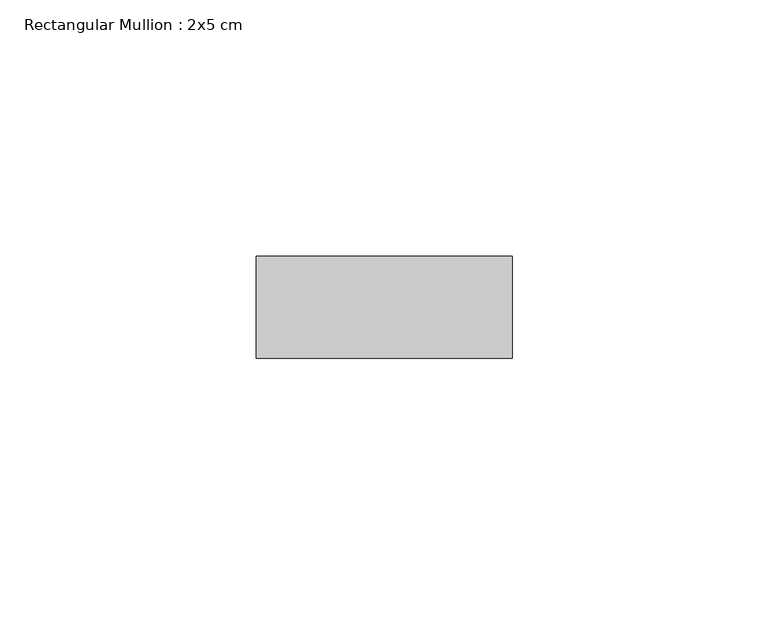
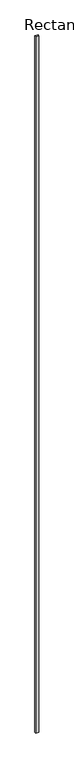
"""IFC4 building model written with IfcOpenShell, lengths in millimetres: member geometry, Rectangular Mullion : 2x5 cm."""

from ifc_helpers import new_model, si_unit, frame, origin, place, context, project, spatial, polyline, outline, extrude, source, transform, mapped, element, save


def rectangular_mullion_2x5_cm_7a28f2c6(model_context):
    return source(origin(), model_context, "Body", "SweptSolid", [
        extrude(outline(polyline([(50.0, 20.0), (50.0, 0.0), (0.0, 0.0), (0.0, 20.0), (50.0, 20.0)])), frame((0.0, 0.0, -11451.5542217), z_axis=(0.0, 0.0, 1.0), x_axis=(1.0, 0.0, 0.0)), (0.0, 0.0, 1.0), 11451.5542217),
    ])


if __name__ == "__main__":
    model = new_model("IFC4")
    model_context = context("Model", 3, world=origin())
    ifc_project = project(units=[si_unit("LENGTHUNIT", "METRE", prefix="MILLI")], contexts=[model_context])
    site = spatial("IfcSite", under=ifc_project)
    building = spatial("IfcBuilding", under=site)
    placement = place(None, origin())
    rectangular_mullion_2x5_cm_shape = rectangular_mullion_2x5_cm_7a28f2c6(model_context)
    element("IfcMember", 1, ObjectType="Rectangular Mullion : 2x5 cm", at=placement, inside=building, context=model_context, shape_type="MappedRepresentation", body=[
        mapped(rectangular_mullion_2x5_cm_shape, transform((0.0, 0.0, 0.0), x_axis=(1.0, 0.0, 0.0), y_axis=(0.0, 1.0, 0.0), z_axis=(0.0, 0.0, 1.0))),
    ])
    save(model, "model.ifc")
